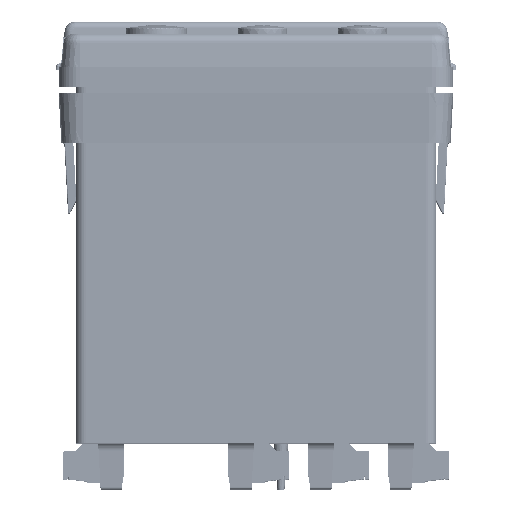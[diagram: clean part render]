
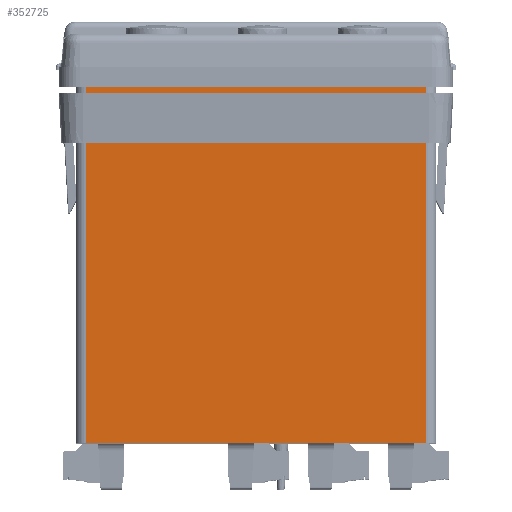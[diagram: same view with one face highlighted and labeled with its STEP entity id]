
A CAD part, top view. The second image highlights one B-rep face of the part: STEP entity #352725.
In plain terms, the highlighted planar face has unit normal (0, 0, 1).
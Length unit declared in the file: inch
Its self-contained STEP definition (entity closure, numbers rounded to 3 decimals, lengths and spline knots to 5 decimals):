
#50339 = CARTESIAN_POINT ( 'NONE',  ( -1.705, -0.119, 1.805 ) ) ;
#50342 = DIRECTION ( 'NONE',  ( -1., 0., 0. ) ) ;
#50344 = VECTOR ( 'NONE', #50342, 39.37008 ) ;
#50345 = CARTESIAN_POINT ( 'NONE',  ( 1.705, -0.119, 1.805 ) ) ;
#50348 = LINE ( 'NONE', #50345, #50344 ) ;
#52612 = DIRECTION ( 'NONE',  ( 0., 1., 0. ) ) ;
#52614 = VECTOR ( 'NONE', #52612, 39.37008 ) ;
#52617 = CARTESIAN_POINT ( 'NONE',  ( -1.705, -3.746, 1.805 ) ) ;
#52618 = LINE ( 'NONE', #52617, #52614 ) ;
#52870 = DIRECTION ( 'NONE',  ( 1., 0., 0. ) ) ;
#52871 = DIRECTION ( 'NONE',  ( 0., 0., 1. ) ) ;
#52879 = CARTESIAN_POINT ( 'NONE',  ( -1.705, -3.746, 1.805 ) ) ;
#54689 = AXIS2_PLACEMENT_3D ( 'NONE', #52879, #52871, #52870 ) ;
#54701 = PLANE ( 'NONE',  #54689 ) ;
#54800 = FACE_OUTER_BOUND ( 'NONE', #342269, .T. ) ;
#55709 = DIRECTION ( 'NONE',  ( -1., 0., 0. ) ) ;
#55710 = VECTOR ( 'NONE', #55709, 39.37008 ) ;
#55711 = CARTESIAN_POINT ( 'NONE',  ( 1.55809, -3.746, 1.805 ) ) ;
#55714 = LINE ( 'NONE', #55711, #55710 ) ;
#56259 = CARTESIAN_POINT ( 'NONE',  ( -0.04191, -3.746, 1.805 ) ) ;
#56273 = LINE ( 'NONE', #56259, #56476 ) ;
#56300 = DIRECTION ( 'NONE',  ( -1., 0., 0. ) ) ;
#56301 = VECTOR ( 'NONE', #56300, 39.37008 ) ;
#56304 = CARTESIAN_POINT ( 'NONE',  ( 0.75809, -3.746, 1.805 ) ) ;
#56305 = LINE ( 'NONE', #56304, #56301 ) ;
#56473 = DIRECTION ( 'NONE',  ( -1., 0., 0. ) ) ;
#56476 = VECTOR ( 'NONE', #56473, 39.37008 ) ;
#200591 = VERTEX_POINT ( 'NONE', #327533 ) ;
#200733 = VERTEX_POINT ( 'NONE', #328123 ) ;
#200753 = VERTEX_POINT ( 'NONE', #328201 ) ;
#200765 = EDGE_CURVE ( 'NONE', #200753, #200772, #328280, .T. ) ;
#200772 = VERTEX_POINT ( 'NONE', #328407 ) ;
#200814 = VERTEX_POINT ( 'NONE', #328538 ) ;
#200851 = EDGE_CURVE ( 'NONE', #200854, #200814, #329198, .T. ) ;
#200854 = VERTEX_POINT ( 'NONE', #329175 ) ;
#200890 = EDGE_CURVE ( 'NONE', #200895, #200591, #329361, .T. ) ;
#200895 = VERTEX_POINT ( 'NONE', #329347 ) ;
#200986 = EDGE_CURVE ( 'NONE', #200992, #200733, #330175, .T. ) ;
#200992 = VERTEX_POINT ( 'NONE', #330333 ) ;
#206171 = VERTEX_POINT ( 'NONE', #351797 ) ;
#206182 = EDGE_CURVE ( 'NONE', #200753, #206171, #351783, .T. ) ;
#327533 = CARTESIAN_POINT ( 'NONE',  ( 1.31951, -3.746, 1.805 ) ) ;
#328123 = CARTESIAN_POINT ( 'NONE',  ( 0.51951, -3.746, 1.805 ) ) ;
#328201 = CARTESIAN_POINT ( 'NONE',  ( 1.705, -3.746, 1.805 ) ) ;
#328280 = LINE ( 'NONE', #328414, #328413 ) ;
#328407 = CARTESIAN_POINT ( 'NONE',  ( 1.57836, -3.746, 1.805 ) ) ;
#328411 = DIRECTION ( 'NONE',  ( -1., 0., 0. ) ) ;
#328413 = VECTOR ( 'NONE', #328411, 39.37008 ) ;
#328414 = CARTESIAN_POINT ( 'NONE',  ( 1.705, -3.746, 1.805 ) ) ;
#328538 = CARTESIAN_POINT ( 'NONE',  ( -0.28049, -3.746, 1.805 ) ) ;
#329175 = CARTESIAN_POINT ( 'NONE',  ( -1.705, -3.746, 1.805 ) ) ;
#329177 = DIRECTION ( 'NONE',  ( 1., 0., 0. ) ) ;
#329180 = VECTOR ( 'NONE', #329177, 39.37008 ) ;
#329182 = CARTESIAN_POINT ( 'NONE',  ( -1.705, -3.746, 1.805 ) ) ;
#329198 = LINE ( 'NONE', #329182, #329180 ) ;
#329347 = CARTESIAN_POINT ( 'NONE',  ( 0.77958, -3.746, 1.805 ) ) ;
#329353 = DIRECTION ( 'NONE',  ( 1., 0., 0. ) ) ;
#329354 = VECTOR ( 'NONE', #329353, 39.37008 ) ;
#329358 = CARTESIAN_POINT ( 'NONE',  ( -1.705, -3.746, 1.805 ) ) ;
#329361 = LINE ( 'NONE', #329358, #329354 ) ;
#330175 = LINE ( 'NONE', #330197, #330190 ) ;
#330188 = DIRECTION ( 'NONE',  ( 1., 0., 0. ) ) ;
#330190 = VECTOR ( 'NONE', #330188, 39.37008 ) ;
#330197 = CARTESIAN_POINT ( 'NONE',  ( -1.705, -3.746, 1.805 ) ) ;
#330333 = CARTESIAN_POINT ( 'NONE',  ( -0.02042, -3.746, 1.805 ) ) ;
#341675 = ORIENTED_EDGE ( 'NONE', *, *, #350850, .F. ) ;
#342066 = ORIENTED_EDGE ( 'NONE', *, *, #348962, .T. ) ;
#342264 = ORIENTED_EDGE ( 'NONE', *, *, #206182, .T. ) ;
#342269 = EDGE_LOOP ( 'NONE', ( #342264, #342066, #341675, #350503, #345836, #343732, #354448, #354179, #353773, #354034 ) ) ;
#343732 = ORIENTED_EDGE ( 'NONE', *, *, #200986, .T. ) ;
#345836 = ORIENTED_EDGE ( 'NONE', *, *, #355127, .F. ) ;
#348962 = EDGE_CURVE ( 'NONE', #206171, #348992, #50348, .T. ) ;
#348992 = VERTEX_POINT ( 'NONE', #50339 ) ;
#350503 = ORIENTED_EDGE ( 'NONE', *, *, #200851, .T. ) ;
#350850 = EDGE_CURVE ( 'NONE', #200854, #348992, #52618, .T. ) ;
#351776 = DIRECTION ( 'NONE',  ( 0., 1., 0. ) ) ;
#351779 = VECTOR ( 'NONE', #351776, 39.37008 ) ;
#351781 = CARTESIAN_POINT ( 'NONE',  ( 1.705, -3.746, 1.805 ) ) ;
#351783 = LINE ( 'NONE', #351781, #351779 ) ;
#351797 = CARTESIAN_POINT ( 'NONE',  ( 1.705, -0.119, 1.805 ) ) ;
#352725 = ADVANCED_FACE ( 'NONE', ( #54800 ), #54701, .T. ) ;
#353773 = ORIENTED_EDGE ( 'NONE', *, *, #353977, .F. ) ;
#353977 = EDGE_CURVE ( 'NONE', #200772, #200591, #55714, .T. ) ;
#354034 = ORIENTED_EDGE ( 'NONE', *, *, #200765, .F. ) ;
#354179 = ORIENTED_EDGE ( 'NONE', *, *, #200890, .T. ) ;
#354448 = ORIENTED_EDGE ( 'NONE', *, *, #354469, .F. ) ;
#354469 = EDGE_CURVE ( 'NONE', #200895, #200733, #56305, .T. ) ;
#355127 = EDGE_CURVE ( 'NONE', #200992, #200814, #56273, .T. ) ;
